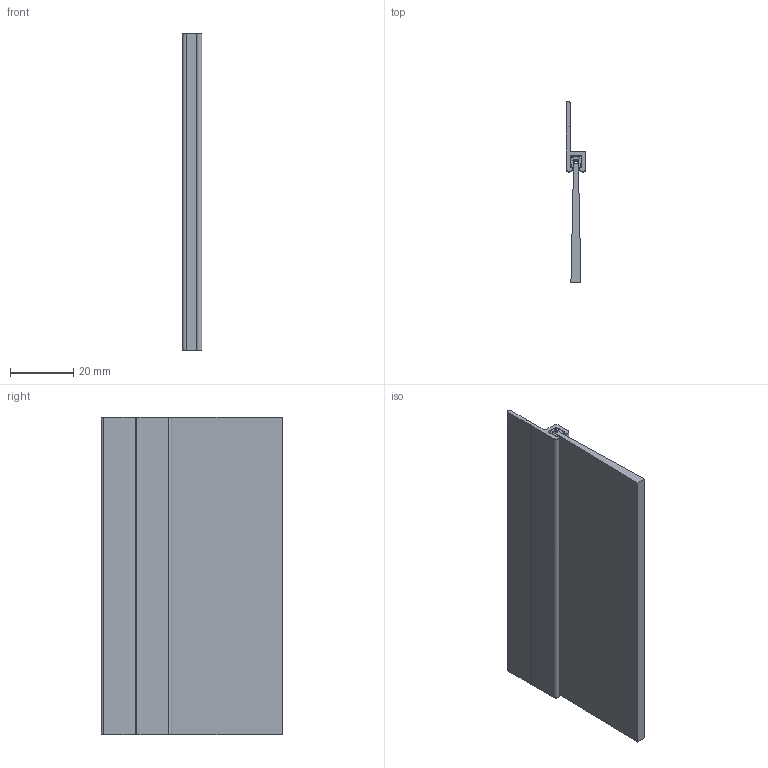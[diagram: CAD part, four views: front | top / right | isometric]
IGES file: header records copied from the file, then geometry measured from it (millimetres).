
Global section: file name: No Iges File Name specified; native system: Autodesk Inventor 2012; preprocessor: AutoDesk Inventor Iges Exporter R2012; author: anna.b; date: 20130830.143439; units: millimetre
Bounding box: 6.24 x 57.13 x 100 mm (x, y, z)
Volume: 13617.2 mm3; surface area: 17107.5 mm2
Topology: 3 solids, 3 shells, 55 faces, 147 edges, 98 vertices
Faces by surface type: plane 38, cylinder 9, revolution 8
